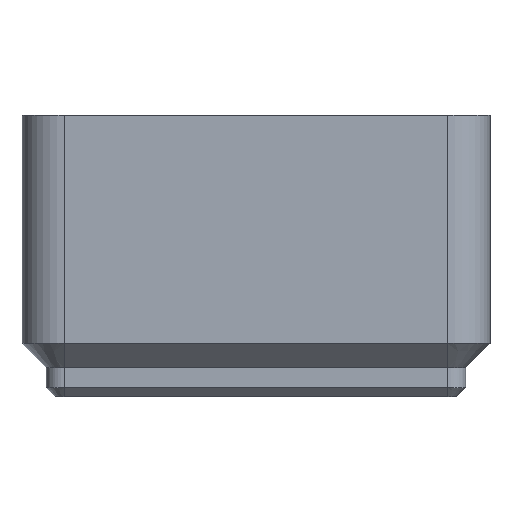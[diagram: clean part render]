
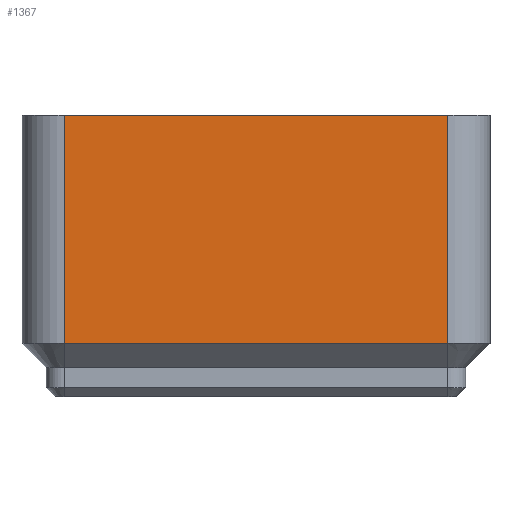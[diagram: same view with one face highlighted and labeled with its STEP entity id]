
A CAD part, front view. The second image highlights one B-rep face of the part: STEP entity #1367.
In plain terms, the highlighted planar face has unit normal (0, -1, 0).
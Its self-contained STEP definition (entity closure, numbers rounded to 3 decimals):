
#641 = PLANE('',#642);
#642 = AXIS2_PLACEMENT_3D('',#643,#644,#645);
#643 = CARTESIAN_POINT('',(0.,-20.75,4.75));
#644 = DIRECTION('',(0.,-0.707,-0.707));
#645 = DIRECTION('',(1.,0.,0.));
#754 = VERTEX_POINT('',#755);
#755 = CARTESIAN_POINT('',(-17.,-20.75,4.75));
#790 = CYLINDRICAL_SURFACE('',#791,3.75);
#791 = AXIS2_PLACEMENT_3D('',#792,#793,#794);
#792 = CARTESIAN_POINT('',(-17.,-17.,4.75));
#793 = DIRECTION('',(-0.,-0.,1.));
#794 = DIRECTION('',(-1.,0.,0.));
#1246 = VERTEX_POINT('',#1247);
#1247 = CARTESIAN_POINT('',(17.,-20.75,4.75));
#1262 = CYLINDRICAL_SURFACE('',#1263,3.75);
#1263 = AXIS2_PLACEMENT_3D('',#1264,#1265,#1266);
#1264 = CARTESIAN_POINT('',(17.,-17.,4.75));
#1265 = DIRECTION('',(-0.,-0.,1.));
#1266 = DIRECTION('',(-1.,0.,0.));
#1317 = VERTEX_POINT('',#1318);
#1318 = CARTESIAN_POINT('',(17.,-20.75,25.));
#1333 = PLANE('',#1334);
#1334 = AXIS2_PLACEMENT_3D('',#1335,#1336,#1337);
#1335 = CARTESIAN_POINT('',(-17.,-17.,25.));
#1336 = DIRECTION('',(0.,0.,-1.));
#1337 = DIRECTION('',(-1.,0.,0.));
#1345 = EDGE_CURVE('',#1246,#1317,#1346,.T.);
#1346 = SURFACE_CURVE('',#1347,(#1350,#1356),.PCURVE_S1.);
#1347 = B_SPLINE_CURVE_WITH_KNOTS('',1,(#1348,#1349),.UNSPECIFIED.,.F.,
  .F.,(2,2),(0.,1.),.PIECEWISE_BEZIER_KNOTS.);
#1348 = CARTESIAN_POINT('',(17.,-20.75,4.75));
#1349 = CARTESIAN_POINT('',(17.,-20.75,25.));
#1350 = PCURVE('',#1262,#1351);
#1351 = DEFINITIONAL_REPRESENTATION('',(#1352),#1355);
#1352 = B_SPLINE_CURVE_WITH_KNOTS('',1,(#1353,#1354),.UNSPECIFIED.,.F.,
  .F.,(2,2),(0.,1.),.PIECEWISE_BEZIER_KNOTS.);
#1353 = CARTESIAN_POINT('',(1.571,0.));
#1354 = CARTESIAN_POINT('',(1.571,20.25));
#1355 = ( GEOMETRIC_REPRESENTATION_CONTEXT(2) 
PARAMETRIC_REPRESENTATION_CONTEXT() REPRESENTATION_CONTEXT('2D SPACE',''
  ) );
#1356 = PCURVE('',#1357,#1362);
#1357 = PLANE('',#1358);
#1358 = AXIS2_PLACEMENT_3D('',#1359,#1360,#1361);
#1359 = CARTESIAN_POINT('',(0.,-20.75,25.));
#1360 = DIRECTION('',(0.,-1.,0.));
#1361 = DIRECTION('',(1.,0.,0.));
#1362 = DEFINITIONAL_REPRESENTATION('',(#1363),#1366);
#1363 = B_SPLINE_CURVE_WITH_KNOTS('',1,(#1364,#1365),.UNSPECIFIED.,.F.,
  .F.,(2,2),(0.,1.),.PIECEWISE_BEZIER_KNOTS.);
#1364 = CARTESIAN_POINT('',(17.,-20.25));
#1365 = CARTESIAN_POINT('',(17.,0.));
#1366 = ( GEOMETRIC_REPRESENTATION_CONTEXT(2) 
PARAMETRIC_REPRESENTATION_CONTEXT() REPRESENTATION_CONTEXT('2D SPACE',''
  ) );
#1367 = ADVANCED_FACE('',(#1368),#1357,.T.);
#1368 = FACE_BOUND('',#1369,.T.);
#1369 = EDGE_LOOP('',(#1370,#1391,#1392,#1415));
#1370 = ORIENTED_EDGE('',*,*,#1371,.T.);
#1371 = EDGE_CURVE('',#754,#1246,#1372,.T.);
#1372 = SURFACE_CURVE('',#1373,(#1377,#1384),.PCURVE_S1.);
#1373 = LINE('',#1374,#1375);
#1374 = CARTESIAN_POINT('',(0.,-20.75,4.75));
#1375 = VECTOR('',#1376,1.);
#1376 = DIRECTION('',(1.,0.,0.));
#1377 = PCURVE('',#1357,#1378);
#1378 = DEFINITIONAL_REPRESENTATION('',(#1379),#1383);
#1379 = LINE('',#1380,#1381);
#1380 = CARTESIAN_POINT('',(0.,-20.25));
#1381 = VECTOR('',#1382,1.);
#1382 = DIRECTION('',(1.,0.));
#1383 = ( GEOMETRIC_REPRESENTATION_CONTEXT(2) 
PARAMETRIC_REPRESENTATION_CONTEXT() REPRESENTATION_CONTEXT('2D SPACE',''
  ) );
#1384 = PCURVE('',#641,#1385);
#1385 = DEFINITIONAL_REPRESENTATION('',(#1386),#1390);
#1386 = LINE('',#1387,#1388);
#1387 = CARTESIAN_POINT('',(0.,0.));
#1388 = VECTOR('',#1389,1.);
#1389 = DIRECTION('',(1.,0.));
#1390 = ( GEOMETRIC_REPRESENTATION_CONTEXT(2) 
PARAMETRIC_REPRESENTATION_CONTEXT() REPRESENTATION_CONTEXT('2D SPACE',''
  ) );
#1391 = ORIENTED_EDGE('',*,*,#1345,.T.);
#1392 = ORIENTED_EDGE('',*,*,#1393,.F.);
#1393 = EDGE_CURVE('',#1394,#1317,#1396,.T.);
#1394 = VERTEX_POINT('',#1395);
#1395 = CARTESIAN_POINT('',(-17.,-20.75,25.));
#1396 = SURFACE_CURVE('',#1397,(#1401,#1408),.PCURVE_S1.);
#1397 = LINE('',#1398,#1399);
#1398 = CARTESIAN_POINT('',(0.,-20.75,25.));
#1399 = VECTOR('',#1400,1.);
#1400 = DIRECTION('',(1.,0.,0.));
#1401 = PCURVE('',#1357,#1402);
#1402 = DEFINITIONAL_REPRESENTATION('',(#1403),#1407);
#1403 = LINE('',#1404,#1405);
#1404 = CARTESIAN_POINT('',(0.,0.));
#1405 = VECTOR('',#1406,1.);
#1406 = DIRECTION('',(1.,0.));
#1407 = ( GEOMETRIC_REPRESENTATION_CONTEXT(2) 
PARAMETRIC_REPRESENTATION_CONTEXT() REPRESENTATION_CONTEXT('2D SPACE',''
  ) );
#1408 = PCURVE('',#1333,#1409);
#1409 = DEFINITIONAL_REPRESENTATION('',(#1410),#1414);
#1410 = LINE('',#1411,#1412);
#1411 = CARTESIAN_POINT('',(-17.,-3.75));
#1412 = VECTOR('',#1413,1.);
#1413 = DIRECTION('',(-1.,0.));
#1414 = ( GEOMETRIC_REPRESENTATION_CONTEXT(2) 
PARAMETRIC_REPRESENTATION_CONTEXT() REPRESENTATION_CONTEXT('2D SPACE',''
  ) );
#1415 = ORIENTED_EDGE('',*,*,#1416,.F.);
#1416 = EDGE_CURVE('',#754,#1394,#1417,.T.);
#1417 = SURFACE_CURVE('',#1418,(#1421,#1427),.PCURVE_S1.);
#1418 = B_SPLINE_CURVE_WITH_KNOTS('',1,(#1419,#1420),.UNSPECIFIED.,.F.,
  .F.,(2,2),(0.,1.),.PIECEWISE_BEZIER_KNOTS.);
#1419 = CARTESIAN_POINT('',(-17.,-20.75,4.75));
#1420 = CARTESIAN_POINT('',(-17.,-20.75,25.));
#1421 = PCURVE('',#1357,#1422);
#1422 = DEFINITIONAL_REPRESENTATION('',(#1423),#1426);
#1423 = B_SPLINE_CURVE_WITH_KNOTS('',1,(#1424,#1425),.UNSPECIFIED.,.F.,
  .F.,(2,2),(0.,1.),.PIECEWISE_BEZIER_KNOTS.);
#1424 = CARTESIAN_POINT('',(-17.,-20.25));
#1425 = CARTESIAN_POINT('',(-17.,0.));
#1426 = ( GEOMETRIC_REPRESENTATION_CONTEXT(2) 
PARAMETRIC_REPRESENTATION_CONTEXT() REPRESENTATION_CONTEXT('2D SPACE',''
  ) );
#1427 = PCURVE('',#790,#1428);
#1428 = DEFINITIONAL_REPRESENTATION('',(#1429),#1432);
#1429 = B_SPLINE_CURVE_WITH_KNOTS('',1,(#1430,#1431),.UNSPECIFIED.,.F.,
  .F.,(2,2),(0.,1.),.PIECEWISE_BEZIER_KNOTS.);
#1430 = CARTESIAN_POINT('',(1.571,0.));
#1431 = CARTESIAN_POINT('',(1.571,20.25));
#1432 = ( GEOMETRIC_REPRESENTATION_CONTEXT(2) 
PARAMETRIC_REPRESENTATION_CONTEXT() REPRESENTATION_CONTEXT('2D SPACE',''
  ) );
